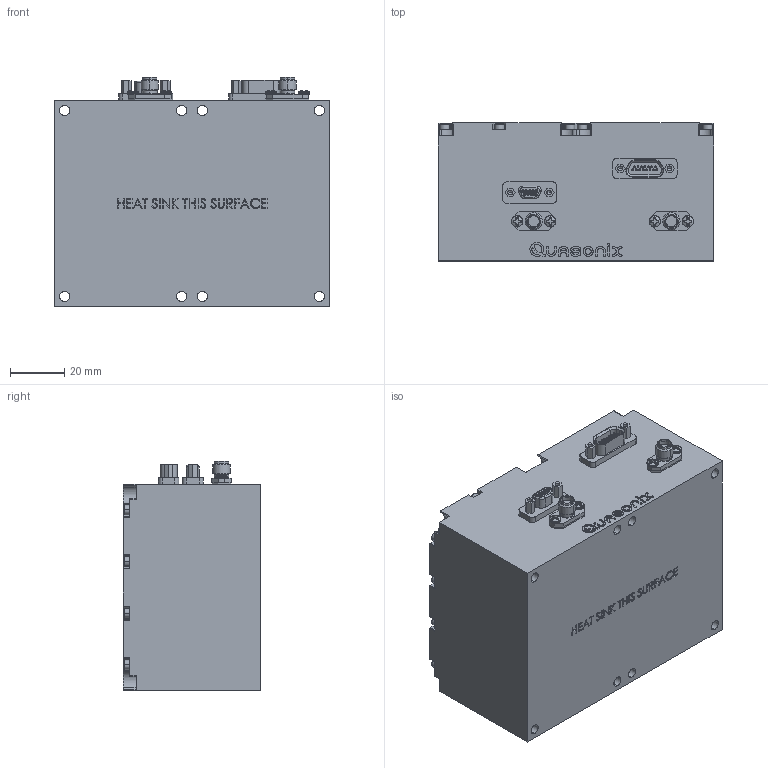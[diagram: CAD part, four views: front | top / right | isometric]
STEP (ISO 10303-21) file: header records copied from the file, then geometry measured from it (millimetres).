
FILE_DESCRIPTION (( 'STEP AP214' ), '1' );
FILE_NAME ('25AF.STEP', '2017-12-28T19:37:26', ( '' ), ( '' ), 'SwSTEP 2.0', 'SolidWorks 2016', '' );
FILE_SCHEMA (( 'AUTOMOTIVE_DESIGN' ));
Length unit declared in the file: inch
Products named in the file (1): 25AF
Bounding box: 101.6 x 50.8 x 84.65 mm (x, y, z)
Volume: 388532.7 mm3; surface area: 42623.3 mm2
Topology: 34 solids, 34 shells, 1535 faces, 3646 edges, 2300 vertices
Faces by surface type: plane 732, cylinder 363, cone 276, bspline 131, torus 25, sphere 8
Entity records: 65630 total; most frequent: CARTESIAN_POINT 14040, ORIENTED_EDGE 7292, DIRECTION 6989, EDGE_CURVE 3646, AXIS2_PLACEMENT_3D 2475, VERTEX_POINT 2300, LINE 2039, VECTOR 2039
